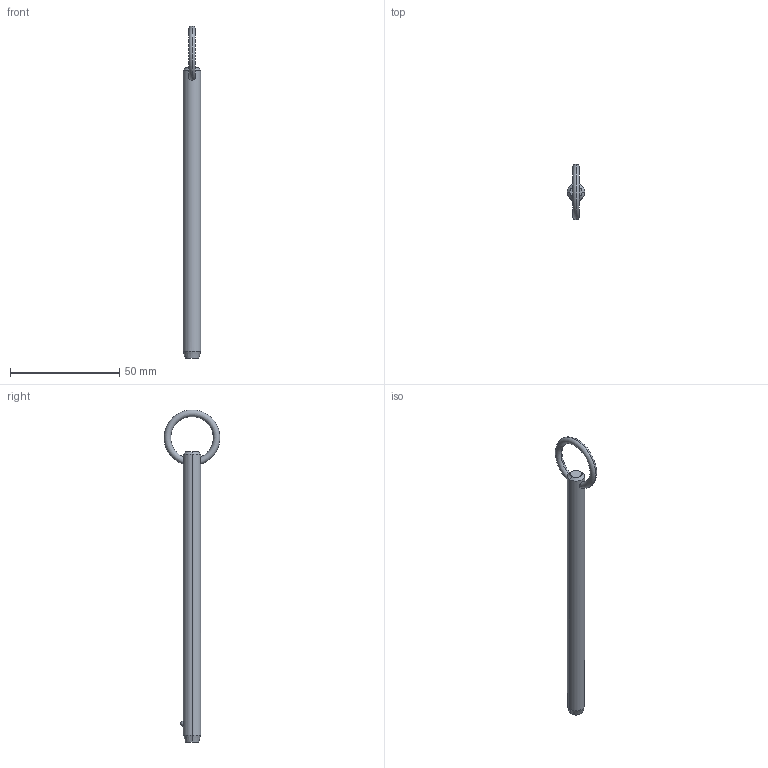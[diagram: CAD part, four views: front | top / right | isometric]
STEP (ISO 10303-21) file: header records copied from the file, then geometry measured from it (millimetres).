
FILE_DESCRIPTION (( 'STEP AP203' ), '1' );
FILE_NAME ('P1250.031-460.step', '2019-07-29T19:56:46', ( '' ), ( '' ), 'SwSTEP 2.0', 'SolidWorks 2017', '' );
FILE_SCHEMA (( 'CONFIG_CONTROL_DESIGN' ));
Length unit declared in the file: millimetre
Products named in the file (1): P1250.031-460
Bounding box: 7.93 x 25.36 x 151.71 mm (x, y, z)
Volume: 6953 mm3; surface area: 3940.6 mm2
Topology: 1 solids, 1 shells, 12 faces, 28 edges, 17 vertices
Faces by surface type: cone 4, torus 2, sphere 2, cylinder 2, plane 2
Entity records: 509 total; most frequent: CARTESIAN_POINT 176, DIRECTION 56, ORIENTED_EDGE 48, AXIS2_PLACEMENT_3D 25, EDGE_CURVE 24, VERTEX_POINT 15, EDGE_LOOP 15, FACE_OUTER_BOUND 12
